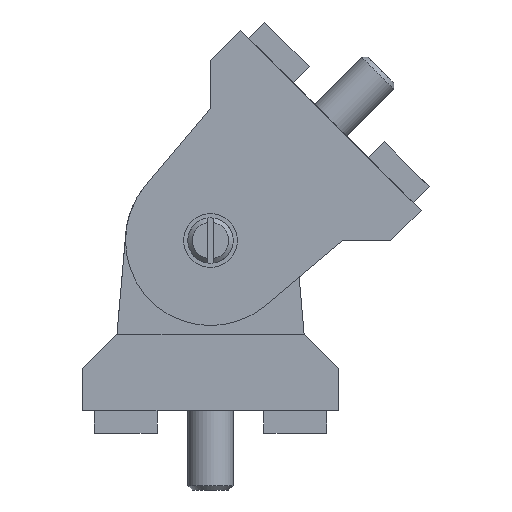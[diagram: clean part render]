
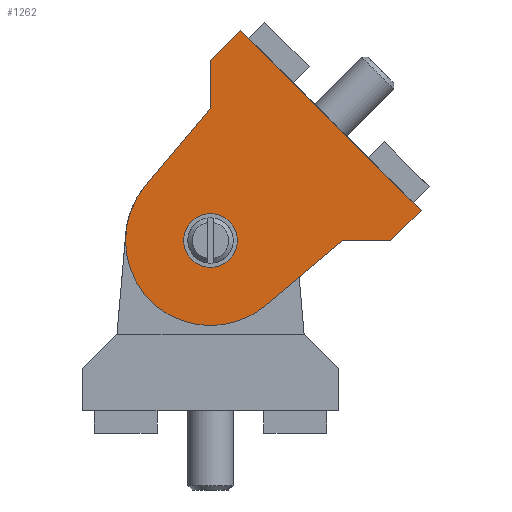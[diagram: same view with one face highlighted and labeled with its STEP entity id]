
A CAD part, front view. The second image highlights one B-rep face of the part: STEP entity #1262.
In plain terms, the highlighted planar face has unit normal (0, -1, 0).
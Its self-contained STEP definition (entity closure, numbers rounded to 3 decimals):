
#371=CARTESIAN_POINT('',(149.367,-45.0,30.0));
#372=VERTEX_POINT('',#371);
#373=CARTESIAN_POINT('',(154.117,-45.0,30.0));
#374=DIRECTION('',(0.0,1.0,0.0));
#375=DIRECTION('',(1.0,0.0,0.0));
#376=AXIS2_PLACEMENT_3D('',#373,#374,#375);
#377=CIRCLE('',#376,4.75);
#378=EDGE_CURVE('',#372,#372,#377,.T.);
#892=CARTESIAN_POINT('',(139.174,-45.0,28.692));
#893=VERTEX_POINT('',#892);
#900=CARTESIAN_POINT('',(137.616,-45.0,46.5));
#901=VERTEX_POINT('',#900);
#902=CARTESIAN_POINT('',(139.174,-45.0,28.692));
#903=DIRECTION('',(-0.087,0.0,0.996));
#904=VECTOR('',#903,17.876);
#905=LINE('',#902,#904);
#906=EDGE_CURVE('',#893,#901,#905,.T.);
#947=CARTESIAN_POINT('',(139.174,-45.0,28.693));
#948=VERTEX_POINT('',#947);
#955=CARTESIAN_POINT('',(139.174,-45.0,28.693));
#956=DIRECTION('',(-0.087,0.0,-0.996));
#957=VECTOR('',#956,0.001);
#958=LINE('',#955,#957);
#959=EDGE_CURVE('',#948,#893,#958,.T.);
#996=CARTESIAN_POINT('',(169.06,-45.0,28.693));
#997=VERTEX_POINT('',#996);
#1004=CARTESIAN_POINT('',(154.117,-45.0,30.));
#1005=DIRECTION('',(0.,1.,0.));
#1006=DIRECTION('',(-0.996,0.,-0.087));
#1007=AXIS2_PLACEMENT_3D('',#1004,#1005,#1006);
#1008=CIRCLE('',#1007,15.);
#1009=EDGE_CURVE('',#997,#948,#1008,.T.);
#1045=CARTESIAN_POINT('',(170.618,-45.0,46.5));
#1046=VERTEX_POINT('',#1045);
#1053=CARTESIAN_POINT('',(170.618,-45.0,46.5));
#1054=DIRECTION('',(-0.087,0.0,-0.996));
#1055=VECTOR('',#1054,17.875);
#1056=LINE('',#1053,#1055);
#1057=EDGE_CURVE('',#1046,#997,#1056,.T.);
#1068=CARTESIAN_POINT('',(131.617,-45.0,52.499));
#1069=VERTEX_POINT('',#1068);
#1070=CARTESIAN_POINT('',(137.616,-45.0,46.5));
#1071=DIRECTION('',(-0.707,0.0,0.707));
#1072=VECTOR('',#1071,8.484);
#1073=LINE('',#1070,#1072);
#1074=EDGE_CURVE('',#901,#1069,#1073,.T.);
#1101=CARTESIAN_POINT('',(131.617,-45.,59.999));
#1102=VERTEX_POINT('',#1101);
#1103=CARTESIAN_POINT('',(131.617,-45.,52.499));
#1104=DIRECTION('',(0.0,0.0,1.0));
#1105=VECTOR('',#1104,7.5);
#1106=LINE('',#1103,#1105);
#1107=EDGE_CURVE('',#1069,#1102,#1106,.T.);
#1132=CARTESIAN_POINT('',(176.617,-45.,59.999));
#1133=VERTEX_POINT('',#1132);
#1134=CARTESIAN_POINT('',(131.617,-45.,59.999));
#1135=DIRECTION('',(1.0,0.0,0.0));
#1136=VECTOR('',#1135,45.);
#1137=LINE('',#1134,#1136);
#1138=EDGE_CURVE('',#1102,#1133,#1137,.T.);
#1173=CARTESIAN_POINT('',(176.617,-45.0,52.499));
#1174=VERTEX_POINT('',#1173);
#1175=CARTESIAN_POINT('',(176.617,-45.0,59.999));
#1176=DIRECTION('',(0.0,0.0,-1.0));
#1177=VECTOR('',#1176,7.5);
#1178=LINE('',#1175,#1177);
#1179=EDGE_CURVE('',#1133,#1174,#1178,.T.);
#1204=CARTESIAN_POINT('',(176.617,-45.0,52.499));
#1205=DIRECTION('',(-0.707,0.0,-0.707));
#1206=VECTOR('',#1205,8.484);
#1207=LINE('',#1204,#1206);
#1208=EDGE_CURVE('',#1174,#1046,#1207,.T.);
#1243=CARTESIAN_POINT('',(154.117,-45.0,42.315));
#1244=DIRECTION('',(0.0,-1.0,0.0));
#1245=DIRECTION('',(1.0,0.0,0.0));
#1246=AXIS2_PLACEMENT_3D('',#1243,#1244,#1245);
#1247=PLANE('',#1246);
#1248=ORIENTED_EDGE('',*,*,#959,.F.);
#1249=ORIENTED_EDGE('',*,*,#1009,.F.);
#1250=ORIENTED_EDGE('',*,*,#1057,.F.);
#1251=ORIENTED_EDGE('',*,*,#1208,.F.);
#1252=ORIENTED_EDGE('',*,*,#1179,.F.);
#1253=ORIENTED_EDGE('',*,*,#1138,.F.);
#1254=ORIENTED_EDGE('',*,*,#1107,.F.);
#1255=ORIENTED_EDGE('',*,*,#1074,.F.);
#1256=ORIENTED_EDGE('',*,*,#906,.F.);
#1257=EDGE_LOOP('',(#1248,#1249,#1250,#1251,#1252,#1253,#1254,#1255,#1256));
#1258=FACE_OUTER_BOUND('',#1257,.T.);
#1259=ORIENTED_EDGE('',*,*,#378,.T.);
#1260=EDGE_LOOP('',(#1259));
#1261=FACE_BOUND('',#1260,.T.);
#1262=ADVANCED_FACE('',(#1258,#1261),#1247,.T.);
